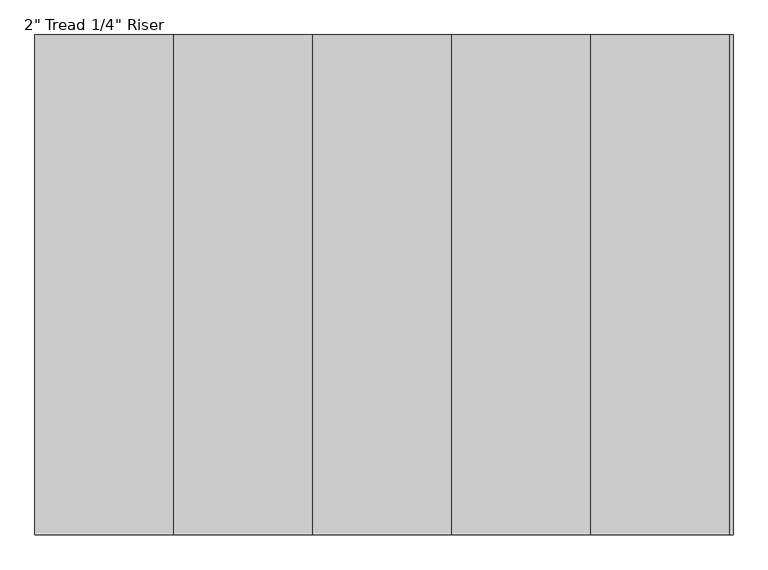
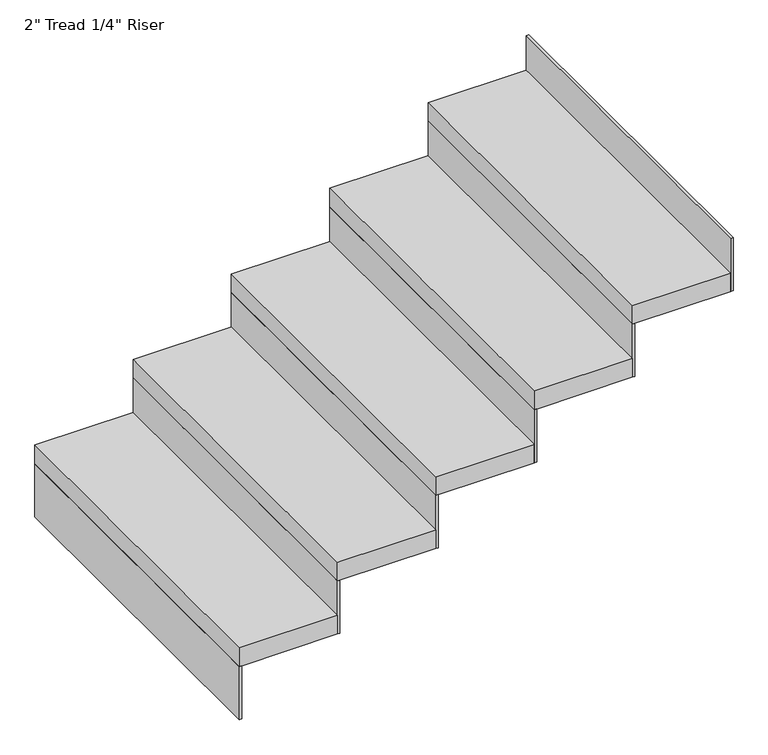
"""IFC4 building model written with IfcOpenShell, lengths in millimetres: stair flight geometry."""

from ifc_helpers import new_model, si_unit, frame, origin, place, context, project, spatial, polyline, outline, extrude, source, transform, mapped, element, save


def stair_flight_6df517c7(model_context):
    return source(origin(), model_context, "Body", "SweptSolid", [
        extrude(outline(polyline([(139632.4382982, -18948.6120358), (139626.0882982, -18948.6120358), (139626.0882982, -18034.2120358), (139632.4382982, -18034.2120358), (139632.4382982, -18948.6120358)])), frame((0.0, 0.0, 2126.3428571), z_axis=(0.0, 0.0, 1.0), x_axis=(1.0, 0.0, 0.0)), (0.0, 0.0, 1.0), 145.1428571),
        extrude(outline(polyline([(139880.0882982, -18034.2120358), (139880.0882982, -18948.6120358), (139626.0882982, -18948.6120358), (139626.0882982, -18034.2120358), (139880.0882982, -18034.2120358)])), frame((0.0, 0.0, 2271.4857143), z_axis=(0.0, 0.0, 1.0), x_axis=(1.0, 0.0, 0.0)), (0.0, 0.0, 1.0), 50.8),
        extrude(outline(polyline([(139886.4382982, -18948.6120358), (139880.0882982, -18948.6120358), (139880.0882982, -18034.2120358), (139886.4382982, -18034.2120358), (139886.4382982, -18948.6120358)])), frame((0.0, 0.0, 2271.4857143), z_axis=(0.0, 0.0, 1.0), x_axis=(1.0, 0.0, 0.0)), (0.0, 0.0, 1.0), 145.1428571),
        extrude(outline(polyline([(140134.0882982, -18034.2120358), (140134.0882982, -18948.6120358), (139880.0882982, -18948.6120358), (139880.0882982, -18034.2120358), (140134.0882982, -18034.2120358)])), frame((0.0, 0.0, 2416.6285714), z_axis=(0.0, 0.0, 1.0), x_axis=(1.0, 0.0, 0.0)), (0.0, 0.0, 1.0), 50.8),
        extrude(outline(polyline([(140140.4382982, -18948.6120358), (140134.0882982, -18948.6120358), (140134.0882982, -18034.2120358), (140140.4382982, -18034.2120358), (140140.4382982, -18948.6120358)])), frame((0.0, 0.0, 2416.6285714), z_axis=(0.0, 0.0, 1.0), x_axis=(1.0, 0.0, 0.0)), (0.0, 0.0, 1.0), 145.1428571),
        extrude(outline(polyline([(140388.0882982, -18034.2120358), (140388.0882982, -18948.6120358), (140134.0882982, -18948.6120358), (140134.0882982, -18034.2120358), (140388.0882982, -18034.2120358)])), frame((0.0, 0.0, 2561.7714286), z_axis=(0.0, 0.0, 1.0), x_axis=(1.0, 0.0, 0.0)), (0.0, 0.0, 1.0), 50.8),
        extrude(outline(polyline([(140394.4382982, -18948.6120358), (140388.0882982, -18948.6120358), (140388.0882982, -18034.2120358), (140394.4382982, -18034.2120358), (140394.4382982, -18948.6120358)])), frame((0.0, 0.0, 2561.7714286), z_axis=(0.0, 0.0, 1.0), x_axis=(1.0, 0.0, 0.0)), (0.0, 0.0, 1.0), 145.1428571),
        extrude(outline(polyline([(140642.0882982, -18034.2120358), (140642.0882982, -18948.6120358), (140388.0882982, -18948.6120358), (140388.0882982, -18034.2120358), (140642.0882982, -18034.2120358)])), frame((0.0, 0.0, 2706.9142857), z_axis=(0.0, 0.0, 1.0), x_axis=(1.0, 0.0, 0.0)), (0.0, 0.0, 1.0), 50.8),
        extrude(outline(polyline([(140648.4382982, -18948.6120358), (140642.0882982, -18948.6120358), (140642.0882982, -18034.2120358), (140648.4382982, -18034.2120358), (140648.4382982, -18948.6120358)])), frame((0.0, 0.0, 2706.9142857), z_axis=(0.0, 0.0, 1.0), x_axis=(1.0, 0.0, 0.0)), (0.0, 0.0, 1.0), 145.1428571),
        extrude(outline(polyline([(140902.4382982, -18948.6120358), (140896.0882982, -18948.6120358), (140896.0882982, -18034.2120358), (140902.4382982, -18034.2120358), (140902.4382982, -18948.6120358)])), frame((0.0, 0.0, 2852.0571429), z_axis=(0.0, 0.0, 1.0), x_axis=(1.0, 0.0, 0.0)), (0.0, 0.0, 1.0), 145.1428571),
        extrude(outline(polyline([(140896.0882982, -18034.2120358), (140896.0882982, -18948.6120358), (140642.0882982, -18948.6120358), (140642.0882982, -18034.2120358), (140896.0882982, -18034.2120358)])), frame((0.0, 0.0, 2852.0571429), z_axis=(0.0, 0.0, 1.0), x_axis=(1.0, 0.0, 0.0)), (0.0, 0.0, 1.0), 50.8),
    ])


if __name__ == "__main__":
    model = new_model("IFC4")
    model_context = context("Model", 3, world=origin())
    ifc_project = project(units=[si_unit("LENGTHUNIT", "METRE", prefix="MILLI")], contexts=[model_context])
    site = spatial("IfcSite", under=ifc_project)
    building = spatial("IfcBuilding", under=site)
    placement = place(None, origin())
    stair_flight_shape = stair_flight_6df517c7(model_context)
    element("IfcStairFlight", 1, ObjectType="2\" Tread 1/4\" Riser", at=placement, inside=building, context=model_context, shape_type="MappedRepresentation", body=[
        mapped(stair_flight_shape, transform((0.0, 0.0, 0.0), x_axis=(1.0, 0.0, 0.0), y_axis=(0.0, 1.0, 0.0), z_axis=(0.0, 0.0, 1.0))),
    ])
    save(model, "model.ifc")
